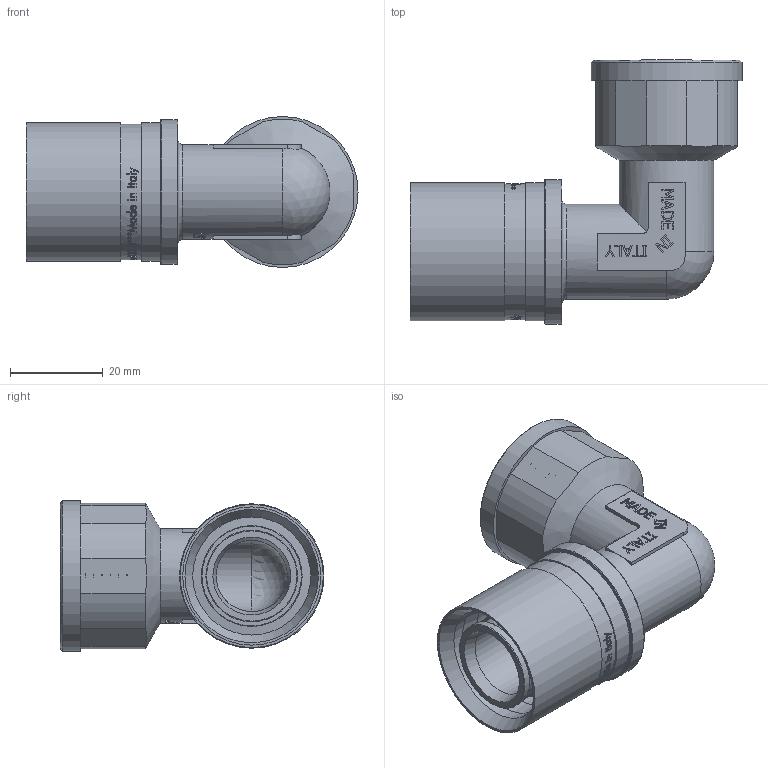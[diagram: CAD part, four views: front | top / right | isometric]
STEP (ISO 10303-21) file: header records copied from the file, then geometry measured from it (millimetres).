
FILE_DESCRIPTION(/* description */ (''),/* implementation_level */ '2;1');
FILE_NAME(/* name */ 'F:\Артём\00000\Работа удаленка\Аксеальные фитинги\VTm.452.BG.002505.stp',/* time_stamp */ '2021-01-27T11:28:54+03:00',/* author */ ('almis'),/* organization */ (''),/* preprocessor_version */ 'ST-DEVELOPER v18',/* originating_system */ 'Autodesk Inventor 2020',/* authorisation */ '');
FILE_SCHEMA (('AUTOMOTIVE_DESIGN { 1 0 10303 214 3 1 1 }'));
Length unit declared in the file: millimetre
Products named in the file (1): VTm.403.BG.001616
Bounding box: 71.71 x 57 x 32.6 mm (x, y, z)
Volume: 23209.7 mm3; surface area: 21835.4 mm2
Topology: 1 solids, 1 shells, 1092 faces, 3000 edges, 2013 vertices
Faces by surface type: bspline 478, plane 455, cylinder 123, torus 23, cone 11, sphere 2
Full cylindrical faces by diameter (mm): 15.4 x2, 18.3 x5, 19.8 x4, 20.5 x2, 21.8 x1, 25.5 x2, 26.4 x7, 29.3 x1, 29.85 x2, 30 x12, 31.2 x1, 32.6 x1
Entity records: 45638 total; most frequent: CARTESIAN_POINT 20725, ORIENTED_EDGE 5996, DIRECTION 3689, EDGE_CURVE 2998, VERTEX_POINT 2013, LINE 1517, VECTOR 1517, EDGE_LOOP 1199
